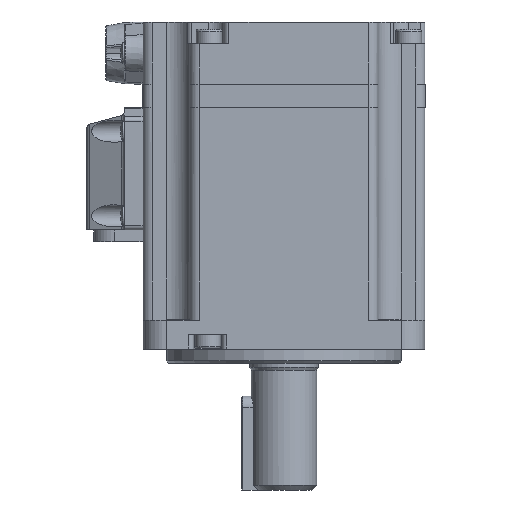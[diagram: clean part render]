
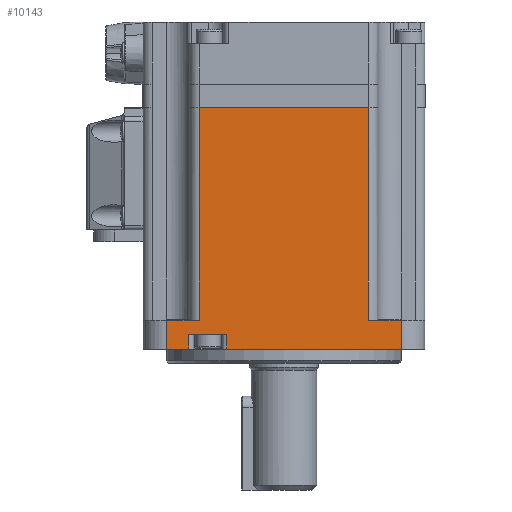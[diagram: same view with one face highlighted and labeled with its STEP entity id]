
A CAD part, left-side view. The second image highlights one B-rep face of the part: STEP entity #10143.
In plain terms, the highlighted planar face has unit normal (-1, 0, 0).
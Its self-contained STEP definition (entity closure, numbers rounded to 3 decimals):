
#623=DIRECTION('',(0.,1.,0.));
#624=VECTOR('',#623,7.);
#625=CARTESIAN_POINT('',(-30.,-25.,-0.2));
#626=LINE('',#625,#624);
#637=DIRECTION('',(0.,0.,1.));
#638=VECTOR('',#637,45.2);
#639=CARTESIAN_POINT('',(-30.,-18.,-0.2));
#640=LINE('',#639,#638);
#641=DIRECTION('',(0.,0.,1.));
#642=VECTOR('',#641,45.2);
#643=CARTESIAN_POINT('',(-30.,18.,-0.2));
#644=LINE('',#643,#642);
#645=DIRECTION('',(0.,0.,-1.));
#646=VECTOR('',#645,6.2);
#647=CARTESIAN_POINT('',(-30.,-25.,-0.2));
#648=LINE('',#647,#646);
#649=DIRECTION('',(0.,1.,0.));
#650=VECTOR('',#649,37.224);
#651=CARTESIAN_POINT('',(-30.,-25.,-6.4));
#652=LINE('',#651,#650);
#653=DIRECTION('',(0.,1.,0.));
#654=VECTOR('',#653,4.776);
#655=CARTESIAN_POINT('',(-30.,20.224,-6.4));
#656=LINE('',#655,#654);
#710=DIRECTION('',(0.,1.,0.));
#711=VECTOR('',#710,7.);
#712=CARTESIAN_POINT('',(-30.,18.,-0.2));
#713=LINE('',#712,#711);
#849=DIRECTION('',(0.,-1.,0.));
#850=VECTOR('',#849,36.);
#851=CARTESIAN_POINT('',(-30.,18.,45.));
#852=LINE('',#851,#850);
#5839=DIRECTION('',(0.,0.,-1.));
#5840=VECTOR('',#5839,6.2);
#5841=CARTESIAN_POINT('',(-30.,25.,-0.2));
#5842=LINE('',#5841,#5840);
#5859=DIRECTION('',(0.,0.,-1.));
#5860=VECTOR('',#5859,3.15);
#5861=CARTESIAN_POINT('',(-30.,12.224,-3.25));
#5862=LINE('',#5861,#5860);
#5944=DIRECTION('',(0.,-1.,0.));
#5945=VECTOR('',#5944,8.);
#5946=CARTESIAN_POINT('',(-30.,20.224,-3.25));
#5947=LINE('',#5946,#5945);
#6154=DIRECTION('',(0.,0.,1.));
#6155=VECTOR('',#6154,3.15);
#6156=CARTESIAN_POINT('',(-30.,20.224,-6.4));
#6157=LINE('',#6156,#6155);
#8740=CARTESIAN_POINT('',(-30.,25.,-6.4));
#8742=VERTEX_POINT('',#8740);
#8743=CARTESIAN_POINT('',(-30.,20.224,-6.4));
#8745=VERTEX_POINT('',#8743);
#8752=CARTESIAN_POINT('',(-30.,12.224,-6.4));
#8754=VERTEX_POINT('',#8752);
#8755=CARTESIAN_POINT('',(-30.,-25.,-6.4));
#8757=VERTEX_POINT('',#8755);
#8817=CARTESIAN_POINT('',(-30.,-25.,-0.2));
#8818=VERTEX_POINT('',#8817);
#8821=CARTESIAN_POINT('',(-30.,25.,-0.2));
#8822=VERTEX_POINT('',#8821);
#8832=CARTESIAN_POINT('',(-30.,18.,-0.2));
#8834=VERTEX_POINT('',#8832);
#8871=CARTESIAN_POINT('',(-30.,-18.,-0.2));
#8873=VERTEX_POINT('',#8871);
#8952=CARTESIAN_POINT('',(-30.,20.224,-3.25));
#8954=VERTEX_POINT('',#8952);
#8955=CARTESIAN_POINT('',(-30.,12.224,-3.25));
#8956=VERTEX_POINT('',#8955);
#9194=CARTESIAN_POINT('',(-30.,18.,45.));
#9195=VERTEX_POINT('',#9194);
#9196=CARTESIAN_POINT('',(-30.,-18.,45.));
#9197=VERTEX_POINT('',#9196);
#10116=CARTESIAN_POINT('',(-30.,0.,-3.2));
#10117=DIRECTION('',(1.,0.,0.));
#10118=DIRECTION('',(0.,-1.,0.));
#10119=AXIS2_PLACEMENT_3D('',#10116,#10117,#10118);
#10120=PLANE('',#10119);
#10122=ORIENTED_EDGE('',*,*,#10121,.T.);
#10124=ORIENTED_EDGE('',*,*,#10123,.T.);
#10125=ORIENTED_EDGE('',*,*,#10104,.F.);
#10126=ORIENTED_EDGE('',*,*,#10088,.F.);
#10128=ORIENTED_EDGE('',*,*,#10127,.T.);
#10129=ORIENTED_EDGE('',*,*,#9670,.T.);
#10131=ORIENTED_EDGE('',*,*,#10130,.F.);
#10133=ORIENTED_EDGE('',*,*,#10132,.F.);
#10135=ORIENTED_EDGE('',*,*,#10134,.F.);
#10136=ORIENTED_EDGE('',*,*,#9658,.T.);
#10138=ORIENTED_EDGE('',*,*,#10137,.F.);
#10140=ORIENTED_EDGE('',*,*,#10139,.F.);
#10141=EDGE_LOOP('',(#10122,#10124,#10125,#10126,#10128,#10129,#10131,#10133,
#10135,#10136,#10138,#10140));
#10142=FACE_OUTER_BOUND('',#10141,.F.);
#10143=ADVANCED_FACE('',(#10142),#10120,.F.);
#9658=EDGE_CURVE('',#8745,#8742,#656,.T.);
#9670=EDGE_CURVE('',#8757,#8754,#652,.T.);
#10088=EDGE_CURVE('',#8818,#8873,#626,.T.);
#10104=EDGE_CURVE('',#8873,#9197,#640,.T.);
#10121=EDGE_CURVE('',#8834,#9195,#644,.T.);
#10123=EDGE_CURVE('',#9195,#9197,#852,.T.);
#10127=EDGE_CURVE('',#8818,#8757,#648,.T.);
#10130=EDGE_CURVE('',#8956,#8754,#5862,.T.);
#10132=EDGE_CURVE('',#8954,#8956,#5947,.T.);
#10134=EDGE_CURVE('',#8745,#8954,#6157,.T.);
#10137=EDGE_CURVE('',#8822,#8742,#5842,.T.);
#10139=EDGE_CURVE('',#8834,#8822,#713,.T.);
